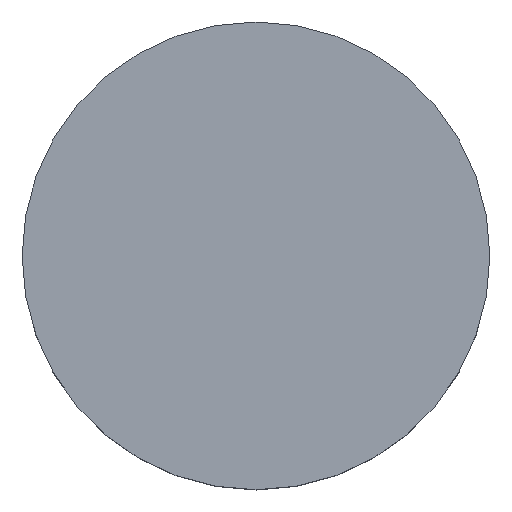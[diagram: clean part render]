
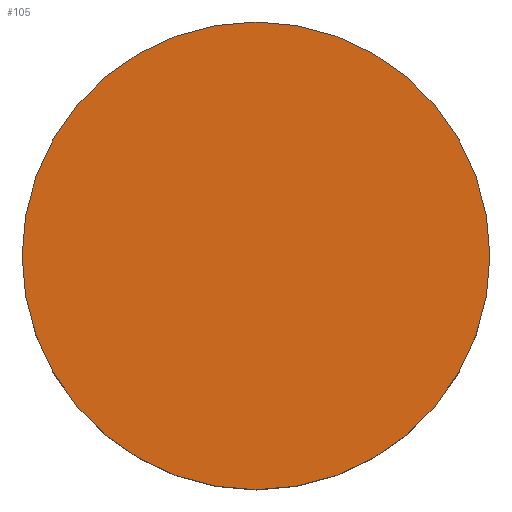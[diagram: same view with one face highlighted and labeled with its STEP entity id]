
A CAD part, top view. The second image highlights one B-rep face of the part: STEP entity #105.
In plain terms, the highlighted planar face has unit normal (0, 0, 1).
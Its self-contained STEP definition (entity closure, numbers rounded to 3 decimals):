
#21 = EDGE_CURVE('',#22,#22,#24,.T.);
#22 = VERTEX_POINT('',#23);
#23 = CARTESIAN_POINT('',(-51.,-26.,4.));
#24 = SURFACE_CURVE('',#25,(#30,#42),.PCURVE_S1.);
#25 = CIRCLE('',#26,1.);
#26 = AXIS2_PLACEMENT_3D('',#27,#28,#29);
#27 = CARTESIAN_POINT('',(-52.,-26.,4.));
#28 = DIRECTION('',(0.,0.,1.));
#29 = DIRECTION('',(1.,0.,-0.));
#30 = PCURVE('',#31,#36);
#31 = CYLINDRICAL_SURFACE('',#32,1.);
#32 = AXIS2_PLACEMENT_3D('',#33,#34,#35);
#33 = CARTESIAN_POINT('',(-52.,-26.,3.4));
#34 = DIRECTION('',(0.,0.,1.));
#35 = DIRECTION('',(1.,0.,-0.));
#36 = DEFINITIONAL_REPRESENTATION('',(#37),#41);
#37 = LINE('',#38,#39);
#38 = CARTESIAN_POINT('',(0.,0.6));
#39 = VECTOR('',#40,1.);
#40 = DIRECTION('',(1.,0.));
#41 = ( GEOMETRIC_REPRESENTATION_CONTEXT(2) 
PARAMETRIC_REPRESENTATION_CONTEXT() REPRESENTATION_CONTEXT('2D SPACE',''
  ) );
#42 = PCURVE('',#43,#48);
#43 = PLANE('',#44);
#44 = AXIS2_PLACEMENT_3D('',#45,#46,#47);
#45 = CARTESIAN_POINT('',(-52.,-26.,4.));
#46 = DIRECTION('',(0.,0.,1.));
#47 = DIRECTION('',(1.,0.,-0.));
#48 = DEFINITIONAL_REPRESENTATION('',(#49),#53);
#49 = CIRCLE('',#50,1.);
#50 = AXIS2_PLACEMENT_2D('',#51,#52);
#51 = CARTESIAN_POINT('',(0.,0.));
#52 = DIRECTION('',(1.,0.));
#53 = ( GEOMETRIC_REPRESENTATION_CONTEXT(2) 
PARAMETRIC_REPRESENTATION_CONTEXT() REPRESENTATION_CONTEXT('2D SPACE',''
  ) );
#105 = ADVANCED_FACE('',(#106),#43,.T.);
#106 = FACE_BOUND('',#107,.T.);
#107 = EDGE_LOOP('',(#108));
#108 = ORIENTED_EDGE('',*,*,#21,.T.);
